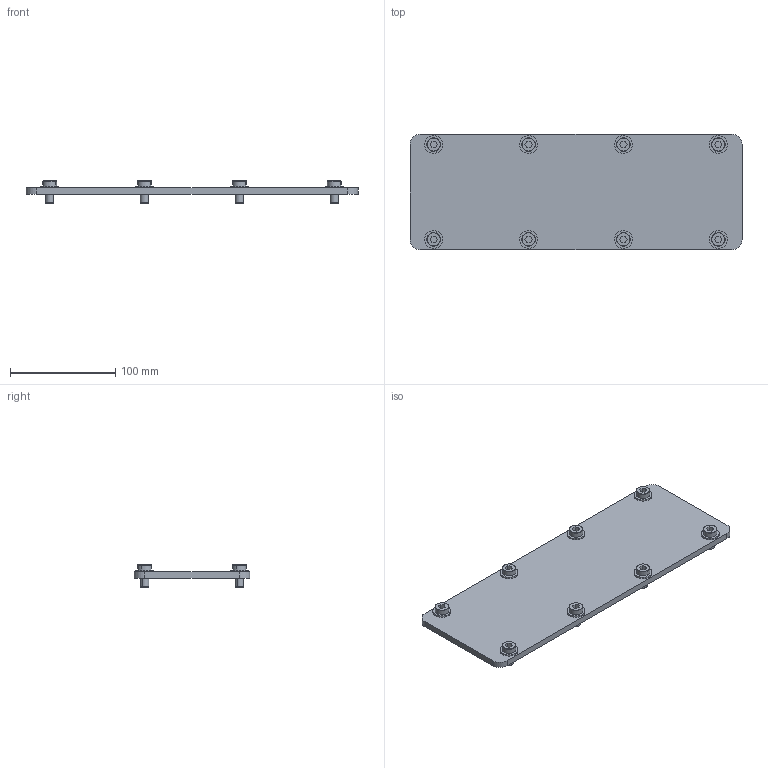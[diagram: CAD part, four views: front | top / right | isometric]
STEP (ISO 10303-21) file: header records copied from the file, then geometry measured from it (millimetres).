
FILE_DESCRIPTION (( 'STEP AP214' ), '1' );
FILE_NAME ('900.100.108.STEP', '2015-02-23T15:37:18', ( '' ), ( '' ), 'SwSTEP 2.0', 'SolidWorks 2012', '' );
FILE_SCHEMA (( 'AUTOMOTIVE_DESIGN' ));
Length unit declared in the file: millimetre
Products named in the file (4): 900.100.108; 084.301.000 VITI ALUSIC_084.301.002; 900.100.009; RONDELLE UNI 6592_8.4x17 UNI 6592
Assembly tree (17 placements, depth 2):
  900.100.108
    084.301.000 VITI ALUSIC_084.301.002  x8
    900.100.009
    RONDELLE UNI 6592_8.4x17 UNI 6592  x8
Bounding box: 315 x 110 x 21 mm (x, y, z)
Volume: 217341 mm3; surface area: 85998.8 mm2
Topology: 17 solids, 17 shells, 218 faces, 472 edges, 304 vertices
Faces by surface type: plane 102, cylinder 84, cone 16, torus 16
Entity records: 1798 total; most frequent: DIRECTION 324, CARTESIAN_POINT 272, ORIENTED_EDGE 244, AXIS2_PLACEMENT_3D 132, EDGE_CURVE 122, VERTEX_POINT 80, EDGE_LOOP 70, CIRCLE 62
